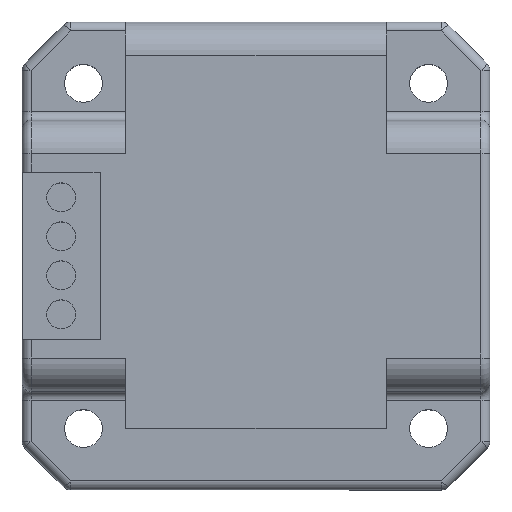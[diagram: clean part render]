
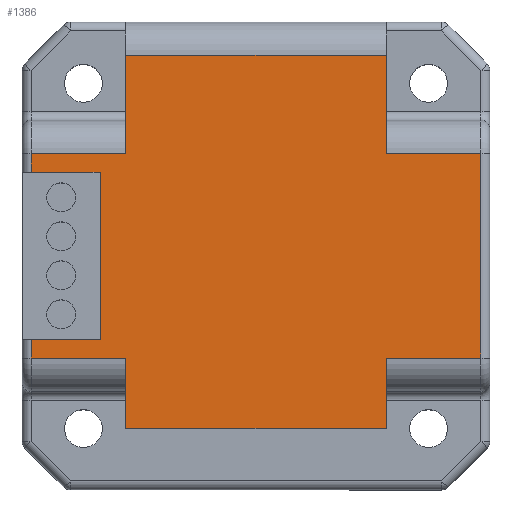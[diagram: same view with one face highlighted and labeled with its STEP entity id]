
A CAD part, top view. The second image highlights one B-rep face of the part: STEP entity #1386.
In plain terms, the highlighted planar face has unit normal (0, 0, 1).
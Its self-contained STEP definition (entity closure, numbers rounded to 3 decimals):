
#6 = EDGE_CURVE ( 'NONE', #1903, #2648, #1788, .T. ) ;
#7 = ORIENTED_EDGE ( 'NONE', *, *, #1666, .F. ) ;
#13 = LINE ( 'NONE', #1288, #1169 ) ;
#69 = ORIENTED_EDGE ( 'NONE', *, *, #2092, .T. ) ;
#83 = CARTESIAN_POINT ( 'NONE',  ( 11.7, 21., 15.1 ) ) ;
#95 = DIRECTION ( 'NONE',  ( -1., 0., 0. ) ) ;
#102 = EDGE_CURVE ( 'NONE', #1997, #2131, #2209, .T. ) ;
#126 = CARTESIAN_POINT ( 'NONE',  ( 21., -9.175, 15.1 ) ) ;
#131 = DIRECTION ( 'NONE',  ( -1., 0., 0. ) ) ;
#164 = ORIENTED_EDGE ( 'NONE', *, *, #204, .F. ) ;
#204 = EDGE_CURVE ( 'NONE', #631, #1295, #2698, .T. ) ;
#210 = VERTEX_POINT ( 'NONE', #3061 ) ;
#224 = ORIENTED_EDGE ( 'NONE', *, *, #941, .T. ) ;
#237 = CARTESIAN_POINT ( 'NONE',  ( 11.7, -15.5, 15.1 ) ) ;
#245 = VECTOR ( 'NONE', #2594, 1000. ) ;
#246 = VECTOR ( 'NONE', #2590, 1000. ) ;
#249 = ORIENTED_EDGE ( 'NONE', *, *, #2710, .F. ) ;
#270 = DIRECTION ( 'NONE',  ( 1., 0., 0. ) ) ;
#273 = LINE ( 'NONE', #320, #2171 ) ;
#320 = CARTESIAN_POINT ( 'NONE',  ( -11.7, 21., 15.1 ) ) ;
#378 = LINE ( 'NONE', #2215, #2923 ) ;
#391 = CARTESIAN_POINT ( 'NONE',  ( -11.7, 9.175, 15.1 ) ) ;
#431 = EDGE_CURVE ( 'NONE', #1882, #967, #273, .T. ) ;
#439 = VECTOR ( 'NONE', #3099, 1000. ) ;
#515 = CARTESIAN_POINT ( 'NONE',  ( 20.2, -9.175, 15.1 ) ) ;
#532 = LINE ( 'NONE', #813, #3072 ) ;
#606 = VECTOR ( 'NONE', #2144, 1000. ) ;
#631 = VERTEX_POINT ( 'NONE', #3034 ) ;
#677 = ORIENTED_EDGE ( 'NONE', *, *, #431, .F. ) ;
#686 = EDGE_LOOP ( 'NONE', ( #3073, #2085, #2779, #677, #7, #249, #69, #2082, #224, #1302, #2126, #1265, #3138, #2170, #164, #2837 ) ) ;
#742 = LINE ( 'NONE', #3077, #606 ) ;
#763 = LINE ( 'NONE', #1418, #2048 ) ;
#769 = CARTESIAN_POINT ( 'NONE',  ( -20.2, 7.5, 15.1 ) ) ;
#772 = CARTESIAN_POINT ( 'NONE',  ( 20.2, 12.175, 15.1 ) ) ;
#813 = CARTESIAN_POINT ( 'NONE',  ( -11.7, 18., 15.1 ) ) ;
#820 = CARTESIAN_POINT ( 'NONE',  ( -20.2, 12.175, 15.1 ) ) ;
#863 = LINE ( 'NONE', #2822, #246 ) ;
#913 = EDGE_CURVE ( 'NONE', #2180, #1633, #2428, .T. ) ;
#924 = CARTESIAN_POINT ( 'NONE',  ( -14., -7.5, 15.1 ) ) ;
#941 = EDGE_CURVE ( 'NONE', #210, #1633, #1059, .T. ) ;
#943 = CARTESIAN_POINT ( 'NONE',  ( -11.7, 18., 15.1 ) ) ;
#967 = VERTEX_POINT ( 'NONE', #3119 ) ;
#1059 = LINE ( 'NONE', #391, #2268 ) ;
#1075 = VECTOR ( 'NONE', #270, 1000. ) ;
#1076 = LINE ( 'NONE', #126, #1704 ) ;
#1087 = EDGE_CURVE ( 'NONE', #2131, #1295, #763, .T. ) ;
#1156 = LINE ( 'NONE', #820, #2993 ) ;
#1169 = VECTOR ( 'NONE', #3050, 1000. ) ;
#1265 = ORIENTED_EDGE ( 'NONE', *, *, #2034, .F. ) ;
#1274 = FACE_OUTER_BOUND ( 'NONE', #686, .T. ) ;
#1288 = CARTESIAN_POINT ( 'NONE',  ( 11.7, -15.5, 15.1 ) ) ;
#1295 = VERTEX_POINT ( 'NONE', #769 ) ;
#1302 = ORIENTED_EDGE ( 'NONE', *, *, #913, .F. ) ;
#1347 = DIRECTION ( 'NONE',  ( -1., 0., 0. ) ) ;
#1386 = ADVANCED_FACE ( 'NONE', ( #1274 ), #3005, .F. ) ;
#1418 = CARTESIAN_POINT ( 'NONE',  ( -20.2, 12.175, 15.1 ) ) ;
#1434 = DIRECTION ( 'NONE',  ( 0., -1., 0. ) ) ;
#1439 = CARTESIAN_POINT ( 'NONE',  ( -11.7, -15.5, 15.1 ) ) ;
#1522 = VECTOR ( 'NONE', #1636, 1000. ) ;
#1580 = CARTESIAN_POINT ( 'NONE',  ( -20.2, 9.175, 15.1 ) ) ;
#1633 = VERTEX_POINT ( 'NONE', #3016 ) ;
#1636 = DIRECTION ( 'NONE',  ( -1., 0., 0. ) ) ;
#1666 = EDGE_CURVE ( 'NONE', #1842, #1882, #13, .T. ) ;
#1704 = VECTOR ( 'NONE', #1850, 1000. ) ;
#1729 = CARTESIAN_POINT ( 'NONE',  ( -20.2, -7.5, 15.1 ) ) ;
#1736 = AXIS2_PLACEMENT_3D ( 'NONE', #1791, #2057, #95 ) ;
#1760 = CARTESIAN_POINT ( 'NONE',  ( -11.7, 9.175, 15.1 ) ) ;
#1788 = LINE ( 'NONE', #2254, #1075 ) ;
#1791 = CARTESIAN_POINT ( 'NONE',  ( -11.7, 12.175, 15.1 ) ) ;
#1826 = DIRECTION ( 'NONE',  ( 0., 1., 0. ) ) ;
#1832 = CARTESIAN_POINT ( 'NONE',  ( -11.7, 21., 15.1 ) ) ;
#1837 = VECTOR ( 'NONE', #2998, 1000. ) ;
#1838 = CARTESIAN_POINT ( 'NONE',  ( 11.7, -9.175, 15.1 ) ) ;
#1842 = VERTEX_POINT ( 'NONE', #237 ) ;
#1850 = DIRECTION ( 'NONE',  ( 1., 0., 0. ) ) ;
#1874 = VERTEX_POINT ( 'NONE', #943 ) ;
#1882 = VERTEX_POINT ( 'NONE', #1439 ) ;
#1903 = VERTEX_POINT ( 'NONE', #1729 ) ;
#1917 = LINE ( 'NONE', #772, #1837 ) ;
#1997 = VERTEX_POINT ( 'NONE', #1760 ) ;
#2007 = VERTEX_POINT ( 'NONE', #515 ) ;
#2034 = EDGE_CURVE ( 'NONE', #1997, #1874, #2583, .T. ) ;
#2048 = VECTOR ( 'NONE', #2687, 1000. ) ;
#2057 = DIRECTION ( 'NONE',  ( 0., 0., -1. ) ) ;
#2082 = ORIENTED_EDGE ( 'NONE', *, *, #2949, .T. ) ;
#2085 = ORIENTED_EDGE ( 'NONE', *, *, #3101, .T. ) ;
#2092 = EDGE_CURVE ( 'NONE', #3035, #2007, #1076, .T. ) ;
#2101 = VERTEX_POINT ( 'NONE', #2560 ) ;
#2116 = CARTESIAN_POINT ( 'NONE',  ( -14., 7.5, 15.1 ) ) ;
#2126 = ORIENTED_EDGE ( 'NONE', *, *, #3060, .T. ) ;
#2131 = VERTEX_POINT ( 'NONE', #1580 ) ;
#2144 = DIRECTION ( 'NONE',  ( 1., 0., 0. ) ) ;
#2170 = ORIENTED_EDGE ( 'NONE', *, *, #1087, .T. ) ;
#2171 = VECTOR ( 'NONE', #1826, 1000. ) ;
#2175 = EDGE_CURVE ( 'NONE', #2648, #631, #863, .T. ) ;
#2180 = VERTEX_POINT ( 'NONE', #2838 ) ;
#2209 = LINE ( 'NONE', #2646, #1522 ) ;
#2215 = CARTESIAN_POINT ( 'NONE',  ( 11.7, 21., 15.1 ) ) ;
#2254 = CARTESIAN_POINT ( 'NONE',  ( -14., -7.5, 15.1 ) ) ;
#2268 = VECTOR ( 'NONE', #1347, 1000. ) ;
#2428 = LINE ( 'NONE', #83, #439 ) ;
#2441 = VECTOR ( 'NONE', #2552, 1000. ) ;
#2552 = DIRECTION ( 'NONE',  ( 0., 1., 0. ) ) ;
#2560 = CARTESIAN_POINT ( 'NONE',  ( -20.2, -9.175, 15.1 ) ) ;
#2583 = LINE ( 'NONE', #1832, #2441 ) ;
#2590 = DIRECTION ( 'NONE',  ( 0., 1., 0. ) ) ;
#2591 = EDGE_CURVE ( 'NONE', #2101, #967, #742, .T. ) ;
#2594 = DIRECTION ( 'NONE',  ( -1., 0., 0. ) ) ;
#2646 = CARTESIAN_POINT ( 'NONE',  ( -11.7, 9.175, 15.1 ) ) ;
#2648 = VERTEX_POINT ( 'NONE', #924 ) ;
#2687 = DIRECTION ( 'NONE',  ( 0., -1., 0. ) ) ;
#2698 = LINE ( 'NONE', #2116, #245 ) ;
#2710 = EDGE_CURVE ( 'NONE', #3035, #1842, #378, .T. ) ;
#2779 = ORIENTED_EDGE ( 'NONE', *, *, #2591, .T. ) ;
#2822 = CARTESIAN_POINT ( 'NONE',  ( -14., -7.5, 15.1 ) ) ;
#2837 = ORIENTED_EDGE ( 'NONE', *, *, #2175, .F. ) ;
#2838 = CARTESIAN_POINT ( 'NONE',  ( 11.7, 18., 15.1 ) ) ;
#2923 = VECTOR ( 'NONE', #1434, 1000. ) ;
#2949 = EDGE_CURVE ( 'NONE', #2007, #210, #1917, .T. ) ;
#2993 = VECTOR ( 'NONE', #3055, 1000. ) ;
#2998 = DIRECTION ( 'NONE',  ( 0., 1., 0. ) ) ;
#3005 = PLANE ( 'NONE',  #1736 ) ;
#3016 = CARTESIAN_POINT ( 'NONE',  ( 11.7, 9.175, 15.1 ) ) ;
#3034 = CARTESIAN_POINT ( 'NONE',  ( -14., 7.5, 15.1 ) ) ;
#3035 = VERTEX_POINT ( 'NONE', #1838 ) ;
#3050 = DIRECTION ( 'NONE',  ( -1., 0., 0. ) ) ;
#3055 = DIRECTION ( 'NONE',  ( 0., -1., 0. ) ) ;
#3060 = EDGE_CURVE ( 'NONE', #2180, #1874, #532, .T. ) ;
#3061 = CARTESIAN_POINT ( 'NONE',  ( 20.2, 9.175, 15.1 ) ) ;
#3072 = VECTOR ( 'NONE', #131, 1000. ) ;
#3073 = ORIENTED_EDGE ( 'NONE', *, *, #6, .F. ) ;
#3077 = CARTESIAN_POINT ( 'NONE',  ( -11.7, -9.175, 15.1 ) ) ;
#3099 = DIRECTION ( 'NONE',  ( 0., -1., 0. ) ) ;
#3101 = EDGE_CURVE ( 'NONE', #1903, #2101, #1156, .T. ) ;
#3119 = CARTESIAN_POINT ( 'NONE',  ( -11.7, -9.175, 15.1 ) ) ;
#3138 = ORIENTED_EDGE ( 'NONE', *, *, #102, .T. ) ;
